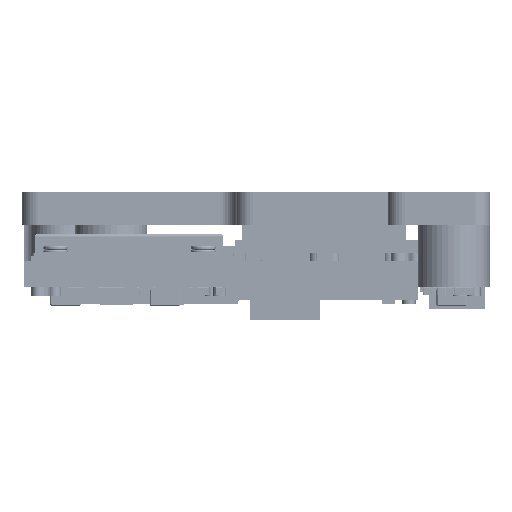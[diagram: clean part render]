
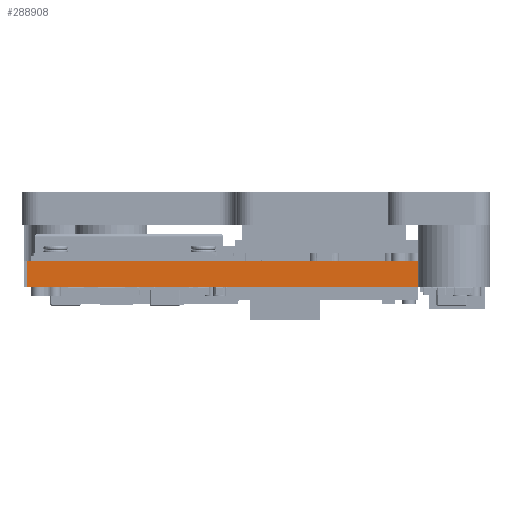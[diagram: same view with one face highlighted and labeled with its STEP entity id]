
A CAD part, left-side view. The second image highlights one B-rep face of the part: STEP entity #288908.
In plain terms, the highlighted planar face has unit normal (-1, 0, 0).
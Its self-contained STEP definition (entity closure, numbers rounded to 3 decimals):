
#3683 = DIRECTION ( 'NONE',  ( 0., -1., 0. ) ) ;
#17942 = CARTESIAN_POINT ( 'NONE',  ( 0., 28., 0. ) ) ;
#22937 = CARTESIAN_POINT ( 'NONE',  ( 0., 28., 1.6 ) ) ;
#60172 = ORIENTED_EDGE ( 'NONE', *, *, #231186, .T. ) ;
#77461 = PLANE ( 'NONE',  #142267 ) ;
#78274 = VERTEX_POINT ( 'NONE', #312558 ) ;
#79218 = DIRECTION ( 'NONE',  ( 0., 0., -1. ) ) ;
#87255 = LINE ( 'NONE', #247270, #324196 ) ;
#99677 = DIRECTION ( 'NONE',  ( 0., -1., 0. ) ) ;
#116594 = EDGE_CURVE ( 'NONE', #175287, #78274, #294104, .T. ) ;
#122126 = EDGE_CURVE ( 'NONE', #230351, #197788, #87255, .T. ) ;
#142267 = AXIS2_PLACEMENT_3D ( 'NONE', #22937, #220867, #79218 ) ;
#164034 = EDGE_LOOP ( 'NONE', ( #298292, #60172, #341202, #218321 ) ) ;
#172180 = VECTOR ( 'NONE', #289673, 1000. ) ;
#175287 = VERTEX_POINT ( 'NONE', #326421 ) ;
#177055 = CARTESIAN_POINT ( 'NONE',  ( 0., 3., 0. ) ) ;
#197788 = VERTEX_POINT ( 'NONE', #249143 ) ;
#208705 = VECTOR ( 'NONE', #308194, 1000. ) ;
#215509 = FACE_OUTER_BOUND ( 'NONE', #164034, .T. ) ;
#218321 = ORIENTED_EDGE ( 'NONE', *, *, #284073, .T. ) ;
#220867 = DIRECTION ( 'NONE',  ( 1., 0., 0. ) ) ;
#230351 = VERTEX_POINT ( 'NONE', #338259 ) ;
#231186 = EDGE_CURVE ( 'NONE', #78274, #197788, #315108, .T. ) ;
#247270 = CARTESIAN_POINT ( 'NONE',  ( 0., 28., 1.6 ) ) ;
#249143 = CARTESIAN_POINT ( 'NONE',  ( 0., 3., 1.6 ) ) ;
#251948 = LINE ( 'NONE', #335381, #208705 ) ;
#263027 = VECTOR ( 'NONE', #99677, 1000. ) ;
#284073 = EDGE_CURVE ( 'NONE', #230351, #175287, #251948, .T. ) ;
#288908 = ADVANCED_FACE ( 'NONE', ( #215509 ), #77461, .F. ) ;
#289673 = DIRECTION ( 'NONE',  ( 0., 0., 1. ) ) ;
#294104 = LINE ( 'NONE', #17942, #263027 ) ;
#298292 = ORIENTED_EDGE ( 'NONE', *, *, #116594, .T. ) ;
#308194 = DIRECTION ( 'NONE',  ( 0., 0., -1. ) ) ;
#312558 = CARTESIAN_POINT ( 'NONE',  ( 0., 3., 0. ) ) ;
#315108 = LINE ( 'NONE', #177055, #172180 ) ;
#324196 = VECTOR ( 'NONE', #3683, 1000. ) ;
#326421 = CARTESIAN_POINT ( 'NONE',  ( 0., 28., 0. ) ) ;
#335381 = CARTESIAN_POINT ( 'NONE',  ( 0., 28., 1.6 ) ) ;
#338259 = CARTESIAN_POINT ( 'NONE',  ( 0., 28., 1.6 ) ) ;
#341202 = ORIENTED_EDGE ( 'NONE', *, *, #122126, .F. ) ;
